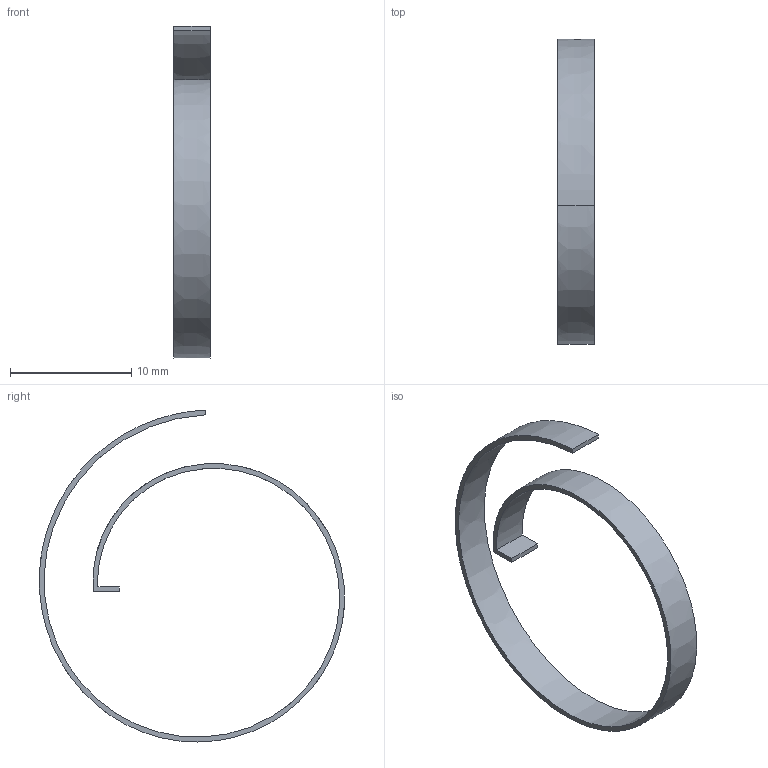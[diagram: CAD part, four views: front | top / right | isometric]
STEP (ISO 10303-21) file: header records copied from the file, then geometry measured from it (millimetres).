
FILE_DESCRIPTION(('Open CASCADE Model'),'2;1');
FILE_NAME('Open CASCADE Shape Model','2026-11-01T16:33:57',('Author'),( 'Open CASCADE'),'Open CASCADE STEP processor 8.0','build123d', 'Unknown');
FILE_SCHEMA(('AUTOMOTIVE_DESIGN { 1 0 10303 214 1 1 1 1 }'));
Length unit declared in the file: millimetre
Products named in the file (1): SOLID
Bounding box: 3 x 25.17 x 27.4 mm (x, y, z)
Volume: 113.8 mm3; surface area: 648.3 mm2
Topology: 1 solids, 1 shells, 9 faces, 21 edges, 14 vertices
Faces by surface type: plane 7, extrusion 2
Entity records: 1448 total; most frequent: CARTESIAN_POINT 1019, DIRECTION 70, VECTOR 54, LINE 52, ORIENTED_EDGE 42, PCURVE 42, DEFINITIONAL_REPRESENTATION 42, EDGE_CURVE 21
